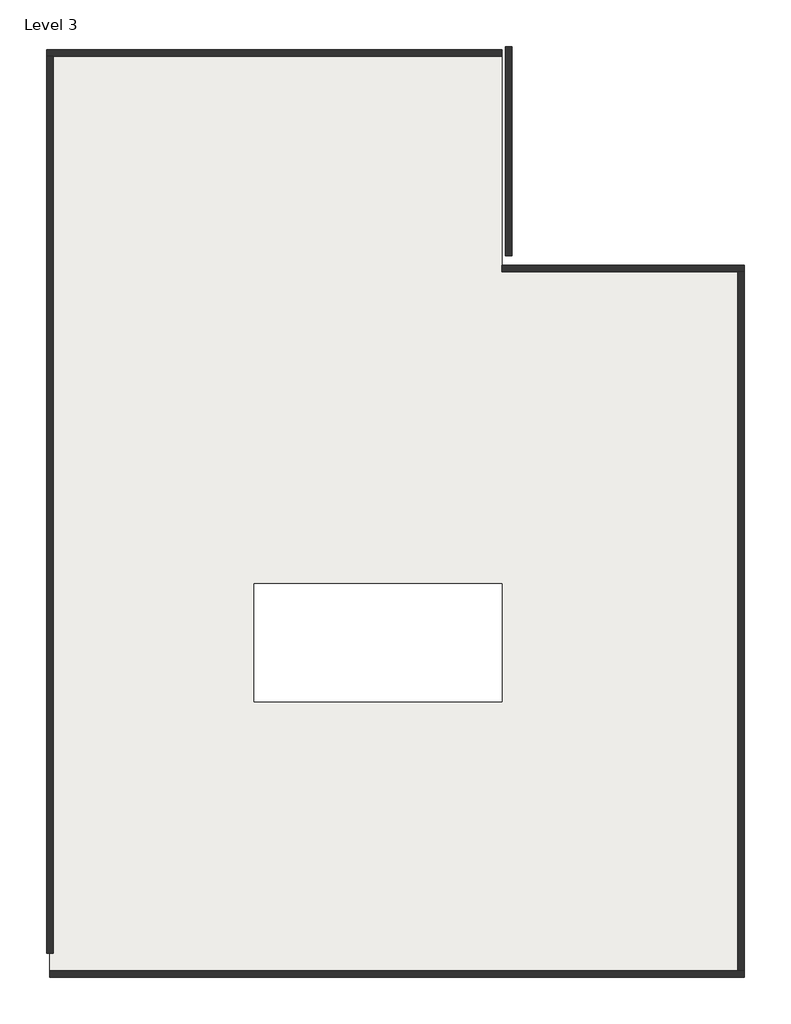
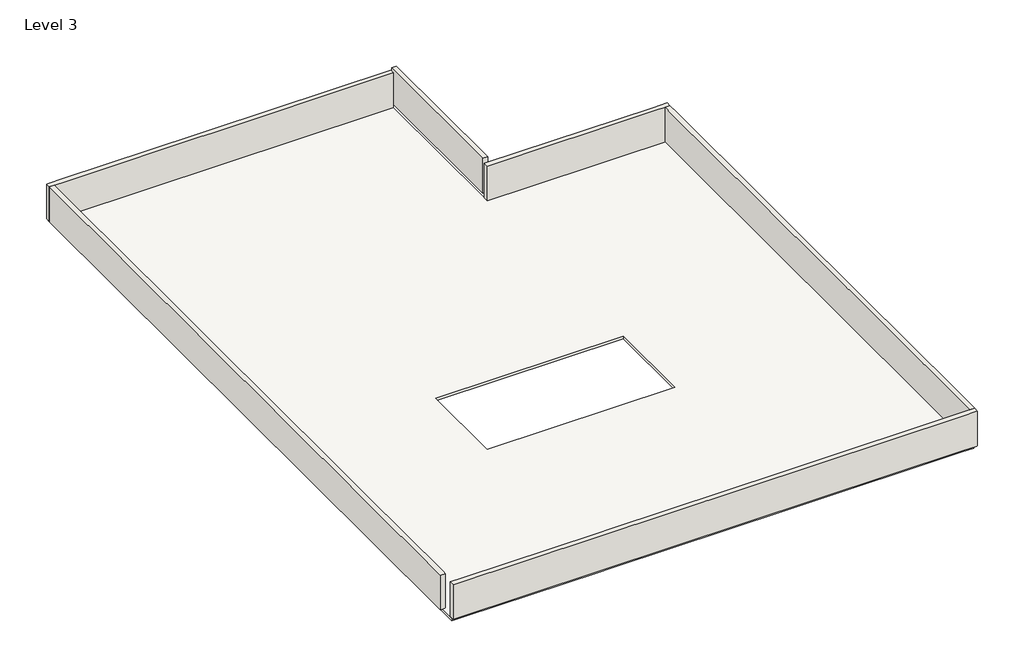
# One storey: 6 walls, 1 slab.
"""IFC4 building model written with IfcOpenShell, lengths in millimetres."""

from ifc_helpers import new_model, si_unit, origin, place, context, project, spatial, faceted_brep, element, save

model = new_model("IFC4")

# Units and contexts
model_context = context("Model", 3, world=origin())
ifc_project = project(units=[si_unit("LENGTHUNIT", "METRE", prefix="MILLI")], contexts=[model_context])

# Site, building, storey
site = spatial("IfcSite", under=ifc_project)
building = spatial("IfcBuilding", under=site)
storey = spatial("IfcBuildingStorey", under=building, Name="Level 3", Elevation=6096.0)

# Slab
placement = place(None, origin())
element("IfcSlab", 1, ObjectType="3\" LW Concrete on 2\" Metal Deck", at=placement, inside=storey, context=model_context, shape_type="Brep", body=[
    faceted_brep([(-16179.1923576, 18097.4217357, 5969.0), (-15627.2047678, 18097.4217357, 5969.0), (-10083.1923576, 18097.4217357, 5969.0), (-9473.5923576, 18097.4217357, 5969.0), (-2209.1923576, 18097.4217357, 5969.0), (-2005.9923576, 18097.4217357, 5969.0), (-2005.9923576, 17894.2217357, 5969.0), (-2005.9923576, 11554.3760709, 5969.0), (-2005.9923576, 11351.1760709, 5969.0), (4991.60363, 11351.1760709, 5969.0), (5475.4233565, 11351.1760709, 5969.0), (5475.4233565, 10791.1563444, 5969.0), (5475.4233565, 4542.7563444, 5969.0), (5475.4233565, 4340.7760709, 5969.0), (5475.4233565, 3780.7563444, 5969.0), (5475.4233565, -3839.2436556, 5969.0), (5475.4233565, -4041.2239291, 5969.0), (5475.4233565, -4601.2436556, 5969.0), (5475.4233565, -10163.8436556, 5969.0), (5475.4233565, -10746.8239291, 5969.0), (4947.6160403, -10746.8239291, 5969.0), (-1745.1799474, -10746.8239291, 5969.0), (-2354.7799474, -10746.8239291, 5969.0), (-9517.5799474, -10746.8239291, 5969.0), (-10127.1799474, -10746.8239291, 5969.0), (-15671.1923576, -10746.8239291, 5969.0), (-16179.1923576, -10746.8239291, 5969.0), (-16179.1923576, -9984.8239291, 5969.0), (-16179.1923576, -4422.2239291, 5969.0), (-16179.1923576, -3660.2239291, 5969.0), (-16179.1923576, 3959.7760709, 5969.0), (-16179.1923576, 4721.7760709, 5969.0), (-16179.1923576, 10970.1760709, 5969.0), (-16179.1923576, 11732.1760709, 5969.0), (-16179.1923576, 17448.7872446, 5969.0), (-2005.9923576, 1473.2246247, 5969.0), (-9778.3923576, 1473.2246247, 5969.0), (-9778.3923576, -2220.3720356, 5969.0), (-2005.9923576, -2220.3720356, 5969.0), (-16179.1923576, 18097.4217357, 6096.0), (-16179.1923576, 17448.7872446, 6096.0), (-16179.1923576, 11732.1760709, 6096.0), (-16179.1923576, 10970.1760709, 6096.0), (-16179.1923576, 4721.7760709, 6096.0), (-16179.1923576, 3959.7760709, 6096.0), (-16179.1923576, -3660.2239291, 6096.0), (-16179.1923576, -4422.2239291, 6096.0), (-16179.1923576, -9984.8239291, 6096.0), (-16179.1923576, -10096.5782643, 6096.0), (-16179.1923576, -10645.2239291, 6096.0), (-16179.1923576, -10746.8239291, 6096.0), (-15975.9923576, -10746.8239291, 6096.0), (4947.6160403, -10746.8239291, 6096.0), (5475.4233565, -10746.8239291, 6096.0), (5475.4233565, -10163.8436556, 6096.0), (5475.4233565, -4601.2436556, 6096.0), (5475.4233565, -4041.2239291, 6096.0), (5475.4233565, -3839.2436556, 6096.0), (5475.4233565, 3780.7563444, 6096.0), (5475.4233565, 4340.7760709, 6096.0), (5475.4233565, 4542.7563444, 6096.0), (5475.4233565, 10791.1563444, 6096.0), (5475.4233565, 11351.1760709, 6096.0), (4991.60363, 11351.1760709, 6096.0), (-2005.9923576, 11351.1760709, 6096.0), (-2005.9923576, 11554.3760709, 6096.0), (-2005.9923576, 17894.2217357, 6096.0), (-2005.9923576, 18097.4217357, 6096.0), (-2209.1923576, 18097.4217357, 6096.0), (-9473.5923576, 18097.4217357, 6096.0), (-10083.1923576, 18097.4217357, 6096.0), (-15627.2047678, 18097.4217357, 6096.0), (-2005.9923576, 1473.2246247, 6096.0), (-2005.9923576, -2220.3720356, 6096.0), (-9778.3923576, -2220.3720356, 6096.0), (-9778.3923576, 1473.2246247, 6096.0)], [[[0, 1, 2, 3, 4, 5, 6, 7, 8, 9, 10, 11, 12, 13, 14, 15, 16, 17, 18, 19, 20, 21, 22, 23, 24, 25, 26, 27, 28, 29, 30, 31, 32, 33, 34], [35, 36, 37, 38]], [[39, 40, 41, 42, 43, 44, 45, 46, 47, 48, 49, 50, 51, 52, 53, 54, 55, 56, 57, 58, 59, 60, 61, 62, 63, 64, 65, 66, 67, 68, 69, 70, 71], [72, 73, 74, 75]], [[5, 4, 3, 2, 1, 0, 39, 71, 70, 69, 68, 67]], [[8, 7, 6, 5, 67, 66, 65, 64]], [[10, 9, 8, 64, 63, 62]], [[13, 12, 11, 10, 62, 61, 60, 59]], [[16, 15, 14, 13, 59, 58, 57, 56]], [[19, 18, 17, 16, 56, 55, 54, 53]], [[26, 25, 24, 23, 22, 21, 20, 19, 53, 52, 51, 50]], [[0, 34, 33, 32, 31, 30, 29, 28, 27, 26, 50, 49, 48, 47, 46, 45, 44, 43, 42, 41, 40, 39]], [[36, 35, 72, 75]], [[37, 36, 75, 74]], [[38, 37, 74, 73]], [[35, 38, 73, 72]]]),
])

# Walls
element("IfcWall", 2, ObjectType="Generic - 8\"", at=placement, inside=storey, context=model_context, shape_type="Brep", body=[
    faceted_brep([(-16280.7923576, 17995.8217357, 6096.0), (-16077.5923576, 17995.8217357, 6096.0), (-15627.2047678, 17995.8217357, 6096.0), (-10083.1923576, 17995.8217357, 6096.0), (-9473.5923576, 17995.8217357, 6096.0), (-2005.9923576, 17995.8217357, 6096.0), (-2005.9923576, 17995.8217357, 7620.0), (-9473.5923576, 17995.8217357, 7620.0), (-10083.1923576, 17995.8217357, 7620.0), (-15627.2047678, 17995.8217357, 7620.0), (-16077.5923576, 17995.8217357, 7620.0), (-16280.7923576, 17995.8217357, 7620.0), (-16280.7923576, 18199.0217357, 6096.0), (-16280.7923576, 18199.0217357, 7620.0), (-16236.8047678, 18199.0217357, 7620.0), (-15627.2047678, 18199.0217357, 7620.0), (-10083.1923576, 18199.0217357, 7620.0), (-9473.5923576, 18199.0217357, 7620.0), (-2005.9923576, 18199.0217357, 7620.0), (-2005.9923576, 18199.0217357, 6096.0), (-2209.1923576, 18199.0217357, 6096.0), (-9473.5923576, 18199.0217357, 6096.0), (-10083.1923576, 18199.0217357, 6096.0), (-15627.2047678, 18199.0217357, 6096.0), (-16236.8047678, 18199.0217357, 6096.0)], [[[0, 1, 2, 3, 4, 5, 6, 7, 8, 9, 10, 11]], [[12, 13, 14, 15, 16, 17, 18, 19, 20, 21, 22, 23, 24]], [[5, 4, 3, 2, 1, 0, 12, 24, 23, 22, 21, 20, 19]], [[6, 5, 19, 18]], [[11, 10, 9, 8, 7, 6, 18, 17, 16, 15, 14, 13]], [[0, 11, 13, 12]]]),
])
element("IfcWall", 3, ObjectType="Generic - 8\"", at=placement, inside=storey, context=model_context, shape_type="Brep", body=[
    faceted_brep([(-2005.9923576, 11249.5760709, 6096.0), (4991.60363, 11249.5760709, 6096.0), (5373.8233565, 11249.5760709, 6096.0), (5577.0233565, 11249.5760709, 6096.0), (5577.0233565, 11249.5760709, 7620.0), (5373.8233565, 11249.5760709, 7620.0), (4991.60363, 11249.5760709, 7620.0), (-2005.9923576, 11249.5760709, 7620.0), (-2005.9923576, 11452.7760709, 6096.0), (-2005.9923576, 11452.7760709, 7620.0), (4991.60363, 11452.7760709, 7620.0), (5577.0233565, 11452.7760709, 7620.0), (5577.0233565, 11452.7760709, 6096.0), (4991.60363, 11452.7760709, 6096.0)], [[[0, 1, 2, 3, 4, 5, 6, 7]], [[8, 9, 10, 11, 12, 13]], [[3, 2, 1, 0, 8, 13, 12]], [[7, 6, 5, 4, 11, 10, 9]], [[0, 7, 9, 8]], [[4, 3, 12, 11]]]),
])
element("IfcWall", 4, ObjectType="Generic - 8\"", at=placement, inside=storey, context=model_context, shape_type="Brep", body=[
    faceted_brep([(5577.0233565, -10645.2239291, 6096.0), (5373.8233565, -10645.2239291, 6096.0), (4947.6160403, -10645.2239291, 6096.0), (-1745.1799474, -10645.2239291, 6096.0), (-2354.7799474, -10645.2239291, 6096.0), (-9517.5799474, -10645.2239291, 6096.0), (-10127.1799474, -10645.2239291, 6096.0), (-15671.1923576, -10645.2239291, 6096.0), (-16179.1923576, -10645.2239291, 6096.0), (-16179.1923576, -10645.2239291, 7620.0), (-15671.1923576, -10645.2239291, 7620.0), (-10127.1799474, -10645.2239291, 7620.0), (-9517.5799474, -10645.2239291, 7620.0), (-2354.7799474, -10645.2239291, 7620.0), (-1745.1799474, -10645.2239291, 7620.0), (4947.6160403, -10645.2239291, 7620.0), (5373.8233565, -10645.2239291, 7620.0), (5577.0233565, -10645.2239291, 7620.0), (5577.0233565, -10848.4239291, 6096.0), (5577.0233565, -10848.4239291, 7620.0), (5557.2160403, -10848.4239291, 7620.0), (4947.6160403, -10848.4239291, 7620.0), (-16179.1923576, -10848.4239291, 7620.0), (-16179.1923576, -10848.4239291, 6096.0), (4947.6160403, -10848.4239291, 6096.0), (5557.2160403, -10848.4239291, 6096.0), (-16179.1923576, -10746.8239291, 7620.0)], [[[0, 1, 2, 3, 4, 5, 6, 7, 8, 9, 10, 11, 12, 13, 14, 15, 16, 17]], [[18, 19, 20, 21, 22, 23, 24, 25]], [[8, 7, 6, 5, 4, 3, 2, 1, 0, 18, 25, 24, 23]], [[9, 8, 23, 22, 26]], [[17, 16, 15, 14, 13, 12, 11, 10, 9, 26, 22, 21, 20, 19]], [[0, 17, 19, 18]]]),
])
element("IfcWall", 5, ObjectType="Generic - 8\"", at=placement, inside=storey, context=model_context, shape_type="Brep", body=[
    faceted_brep([(-16280.7923576, 17995.8217357, 6096.0), (-16280.7923576, -9984.8239291, 6096.0), (-16280.7923576, -10096.5782643, 6096.0), (-16280.7923576, -10096.5782643, 7620.0), (-16280.7923576, 17995.8217357, 7620.0), (-16077.5923576, 17995.8217357, 6096.0), (-16077.5923576, 17995.8217357, 7620.0), (-16077.5923576, 17448.7872446, 7620.0), (-16077.5923576, 11732.1760709, 7620.0), (-16077.5923576, 10970.1760709, 7620.0), (-16077.5923576, 4721.7760709, 7620.0), (-16077.5923576, 3959.7760709, 7620.0), (-16077.5923576, -3660.2239291, 7620.0), (-16077.5923576, -4422.2239291, 7620.0), (-16077.5923576, -9984.8239291, 7620.0), (-16077.5923576, -10096.5782643, 7620.0), (-16077.5923576, -10096.5782643, 6096.0), (-16077.5923576, -9984.8239291, 6096.0), (-16077.5923576, -4422.2239291, 6096.0), (-16077.5923576, -3660.2239291, 6096.0), (-16077.5923576, 3959.7760709, 6096.0), (-16077.5923576, 4721.7760709, 6096.0), (-16077.5923576, 10970.1760709, 6096.0), (-16077.5923576, 11732.1760709, 6096.0), (-16077.5923576, 17448.7872446, 6096.0), (-16179.1923576, -10096.5782643, 6096.0)], [[[0, 1, 2, 3, 4]], [[5, 6, 7, 8, 9, 10, 11, 12, 13, 14, 15, 16, 17, 18, 19, 20, 21, 22, 23, 24]], [[2, 1, 0, 5, 24, 23, 22, 21, 20, 19, 18, 17, 16, 25]], [[3, 2, 25, 16, 15]], [[4, 3, 15, 14, 13, 12, 11, 10, 9, 8, 7, 6]], [[0, 4, 6, 5]]]),
])
element("IfcWall", 6, ObjectType="Generic - 8\"", at=placement, inside=storey, context=model_context, shape_type="Brep", body=[
    faceted_brep([(-1904.3923576, 18300.6217357, 6096.0), (-1904.3923576, 11747.4217357, 6096.0), (-1904.3923576, 11747.4217357, 7620.0), (-1904.3923576, 18300.6217357, 7620.0), (-1701.1923576, 18300.6217357, 6096.0), (-1701.1923576, 18300.6217357, 7620.0), (-1701.1923576, 11747.4217357, 7620.0), (-1701.1923576, 11747.4217357, 6096.0), (-1802.7923576, 18300.6217357, 6096.0)], [[[0, 1, 2, 3]], [[4, 5, 6, 7]], [[1, 0, 8, 4, 7]], [[2, 1, 7, 6]], [[3, 2, 6, 5]], [[0, 3, 5, 4, 8]]]),
])
element("IfcWall", 7, ObjectType="Generic - 8\"", at=placement, inside=storey, context=model_context, shape_type="Brep", body=[
    faceted_brep([(5373.8233565, 11249.5760709, 6096.0), (5373.8233565, 10791.1563444, 6096.0), (5373.8233565, 4542.7563444, 6096.0), (5373.8233565, 3780.7563444, 6096.0), (5373.8233565, -3839.2436556, 6096.0), (5373.8233565, -4601.2436556, 6096.0), (5373.8233565, -10163.8436556, 6096.0), (5373.8233565, -10645.2239291, 6096.0), (5373.8233565, -10645.2239291, 7620.0), (5373.8233565, -10163.8436556, 7620.0), (5373.8233565, -4601.2436556, 7620.0), (5373.8233565, -3839.2436556, 7620.0), (5373.8233565, 3780.7563444, 7620.0), (5373.8233565, 4542.7563444, 7620.0), (5373.8233565, 10791.1563444, 7620.0), (5373.8233565, 11249.5760709, 7620.0), (5577.0233565, 11249.5760709, 6096.0), (5577.0233565, 11249.5760709, 7620.0), (5577.0233565, 10791.1563444, 7620.0), (5577.0233565, 4542.7563444, 7620.0), (5577.0233565, 3780.7563444, 7620.0), (5577.0233565, -3839.2436556, 7620.0), (5577.0233565, -4601.2436556, 7620.0), (5577.0233565, -10645.2239291, 7620.0), (5577.0233565, -10645.2239291, 6096.0), (5577.0233565, -4601.2436556, 6096.0), (5577.0233565, -3839.2436556, 6096.0), (5577.0233565, 3780.7563444, 6096.0), (5577.0233565, 4542.7563444, 6096.0), (5577.0233565, 10791.1563444, 6096.0)], [[[0, 1, 2, 3, 4, 5, 6, 7, 8, 9, 10, 11, 12, 13, 14, 15]], [[16, 17, 18, 19, 20, 21, 22, 23, 24, 25, 26, 27, 28, 29]], [[7, 6, 5, 4, 3, 2, 1, 0, 16, 29, 28, 27, 26, 25, 24]], [[15, 14, 13, 12, 11, 10, 9, 8, 23, 22, 21, 20, 19, 18, 17]], [[0, 15, 17, 16]], [[8, 7, 24, 23]]]),
])

save(model, "model.ifc")
